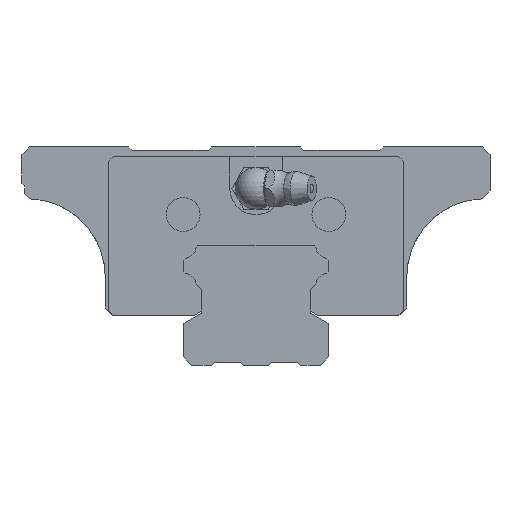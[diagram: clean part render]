
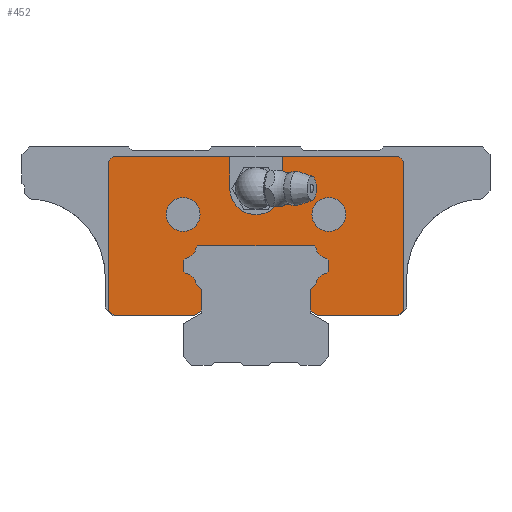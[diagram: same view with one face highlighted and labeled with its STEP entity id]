
A CAD part, front view. The second image highlights one B-rep face of the part: STEP entity #452.
In plain terms, the highlighted planar face has unit normal (0, -1, 0).
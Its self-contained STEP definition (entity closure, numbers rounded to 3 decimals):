
#199=FACE_BOUND('',#966,.T.);
#200=FACE_BOUND('',#967,.T.);
#270=CIRCLE('',#3640,2.6);
#272=CIRCLE('',#3646,2.6);
#274=CIRCLE('',#3652,2.6);
#276=CIRCLE('',#3658,2.6);
#284=CIRCLE('',#3693,3.25);
#285=CIRCLE('',#3694,3.25);
#286=CIRCLE('',#3695,5.05);
#452=ADVANCED_FACE('',(#199,#200,#768),#613,.T.);
#613=PLANE('',#3696);
#768=FACE_OUTER_BOUND('',#968,.T.);
#966=EDGE_LOOP('',(#1684));
#967=EDGE_LOOP('',(#1685));
#968=EDGE_LOOP('',(#1686,#1687,#1688,#1689,#1690,#1691,#1692,#1693,#1694,
#1695,#1696,#1697,#1698,#1699,#1700,#1701,#1702,#1703,#1704,#1705,#1706,
#1707,#1708,#1709,#1710,#1711,#1712,#1713,#1714,#1715,#1716,#1717));
#1684=ORIENTED_EDGE('',*,*,#2681,.T.);
#1685=ORIENTED_EDGE('',*,*,#2682,.T.);
#1686=ORIENTED_EDGE('',*,*,#2676,.F.);
#1687=ORIENTED_EDGE('',*,*,#2683,.F.);
#1688=ORIENTED_EDGE('',*,*,#2684,.F.);
#1689=ORIENTED_EDGE('',*,*,#2685,.T.);
#1690=ORIENTED_EDGE('',*,*,#2679,.F.);
#1691=ORIENTED_EDGE('',*,*,#2686,.F.);
#1692=ORIENTED_EDGE('',*,*,#2687,.F.);
#1693=ORIENTED_EDGE('',*,*,#2688,.T.);
#1694=ORIENTED_EDGE('',*,*,#2582,.T.);
#1695=ORIENTED_EDGE('',*,*,#2585,.T.);
#1696=ORIENTED_EDGE('',*,*,#2588,.F.);
#1697=ORIENTED_EDGE('',*,*,#2591,.F.);
#1698=ORIENTED_EDGE('',*,*,#2594,.T.);
#1699=ORIENTED_EDGE('',*,*,#2597,.F.);
#1700=ORIENTED_EDGE('',*,*,#2600,.T.);
#1701=ORIENTED_EDGE('',*,*,#2603,.T.);
#1702=ORIENTED_EDGE('',*,*,#2606,.T.);
#1703=ORIENTED_EDGE('',*,*,#2609,.T.);
#1704=ORIENTED_EDGE('',*,*,#2612,.T.);
#1705=ORIENTED_EDGE('',*,*,#2615,.F.);
#1706=ORIENTED_EDGE('',*,*,#2618,.T.);
#1707=ORIENTED_EDGE('',*,*,#2621,.F.);
#1708=ORIENTED_EDGE('',*,*,#2624,.F.);
#1709=ORIENTED_EDGE('',*,*,#2627,.T.);
#1710=ORIENTED_EDGE('',*,*,#2630,.T.);
#1711=ORIENTED_EDGE('',*,*,#2633,.T.);
#1712=ORIENTED_EDGE('',*,*,#2636,.T.);
#1713=ORIENTED_EDGE('',*,*,#2639,.F.);
#1714=ORIENTED_EDGE('',*,*,#2642,.T.);
#1715=ORIENTED_EDGE('',*,*,#2689,.F.);
#1716=ORIENTED_EDGE('',*,*,#2690,.T.);
#1717=ORIENTED_EDGE('',*,*,#2691,.T.);
#2191=VERTEX_POINT('',#5266);
#2192=VERTEX_POINT('',#5268);
#2194=VERTEX_POINT('',#5273);
#2196=VERTEX_POINT('',#5279);
#2198=VERTEX_POINT('',#5285);
#2200=VERTEX_POINT('',#5291);
#2202=VERTEX_POINT('',#5297);
#2204=VERTEX_POINT('',#5303);
#2206=VERTEX_POINT('',#5309);
#2208=VERTEX_POINT('',#5315);
#2210=VERTEX_POINT('',#5321);
#2212=VERTEX_POINT('',#5327);
#2214=VERTEX_POINT('',#5333);
#2216=VERTEX_POINT('',#5339);
#2218=VERTEX_POINT('',#5345);
#2220=VERTEX_POINT('',#5351);
#2222=VERTEX_POINT('',#5357);
#2224=VERTEX_POINT('',#5363);
#2226=VERTEX_POINT('',#5369);
#2228=VERTEX_POINT('',#5375);
#2230=VERTEX_POINT('',#5381);
#2231=VERTEX_POINT('',#5386);
#2246=VERTEX_POINT('',#5466);
#2247=VERTEX_POINT('',#5468);
#2248=VERTEX_POINT('',#5471);
#2249=VERTEX_POINT('',#5473);
#2250=VERTEX_POINT('',#5477);
#2251=VERTEX_POINT('',#5479);
#2252=VERTEX_POINT('',#5481);
#2253=VERTEX_POINT('',#5483);
#2254=VERTEX_POINT('',#5486);
#2255=VERTEX_POINT('',#5488);
#2256=VERTEX_POINT('',#5491);
#2257=VERTEX_POINT('',#5493);
#2582=EDGE_CURVE('',#2192,#2191,#2996,.T.);
#2585=EDGE_CURVE('',#2191,#2194,#2999,.T.);
#2588=EDGE_CURVE('',#2196,#2194,#3002,.T.);
#2591=EDGE_CURVE('',#2198,#2196,#3005,.T.);
#2594=EDGE_CURVE('',#2198,#2200,#270,.T.);
#2597=EDGE_CURVE('',#2202,#2200,#3009,.T.);
#2600=EDGE_CURVE('',#2202,#2204,#3012,.T.);
#2603=EDGE_CURVE('',#2204,#2206,#3015,.T.);
#2606=EDGE_CURVE('',#2206,#2208,#272,.T.);
#2609=EDGE_CURVE('',#2208,#2210,#3019,.T.);
#2612=EDGE_CURVE('',#2210,#2212,#3022,.T.);
#2615=EDGE_CURVE('',#2214,#2212,#3025,.T.);
#2618=EDGE_CURVE('',#2214,#2216,#274,.T.);
#2621=EDGE_CURVE('',#2218,#2216,#3029,.T.);
#2624=EDGE_CURVE('',#2220,#2218,#3032,.T.);
#2627=EDGE_CURVE('',#2220,#2222,#3035,.T.);
#2630=EDGE_CURVE('',#2222,#2224,#276,.T.);
#2633=EDGE_CURVE('',#2224,#2226,#3039,.T.);
#2636=EDGE_CURVE('',#2226,#2228,#3042,.T.);
#2639=EDGE_CURVE('',#2230,#2228,#3045,.T.);
#2642=EDGE_CURVE('',#2230,#2231,#3048,.T.);
#2676=EDGE_CURVE('',#2246,#2247,#3075,.T.);
#2679=EDGE_CURVE('',#2248,#2249,#3078,.T.);
#2681=EDGE_CURVE('',#2250,#2250,#284,.T.);
#2682=EDGE_CURVE('',#2251,#2251,#285,.T.);
#2683=EDGE_CURVE('',#2252,#2246,#3080,.T.);
#2684=EDGE_CURVE('',#2253,#2252,#286,.T.);
#2685=EDGE_CURVE('',#2253,#2249,#3081,.T.);
#2686=EDGE_CURVE('',#2254,#2248,#3082,.T.);
#2687=EDGE_CURVE('',#2255,#2254,#3083,.T.);
#2688=EDGE_CURVE('',#2255,#2192,#3084,.T.);
#2689=EDGE_CURVE('',#2256,#2231,#3085,.T.);
#2690=EDGE_CURVE('',#2256,#2257,#3086,.T.);
#2691=EDGE_CURVE('',#2257,#2247,#3087,.T.);
#2996=LINE('',#5267,#3342);
#2999=LINE('',#5274,#3345);
#3002=LINE('',#5280,#3348);
#3005=LINE('',#5286,#3351);
#3009=LINE('',#5298,#3355);
#3012=LINE('',#5304,#3358);
#3015=LINE('',#5310,#3361);
#3019=LINE('',#5322,#3365);
#3022=LINE('',#5328,#3368);
#3025=LINE('',#5334,#3371);
#3029=LINE('',#5346,#3375);
#3032=LINE('',#5352,#3378);
#3035=LINE('',#5358,#3381);
#3039=LINE('',#5370,#3385);
#3042=LINE('',#5376,#3388);
#3045=LINE('',#5382,#3391);
#3048=LINE('',#5387,#3394);
#3075=LINE('',#5467,#3421);
#3078=LINE('',#5472,#3424);
#3080=LINE('',#5480,#3426);
#3081=LINE('',#5484,#3427);
#3082=LINE('',#5485,#3428);
#3083=LINE('',#5487,#3429);
#3084=LINE('',#5489,#3430);
#3085=LINE('',#5490,#3431);
#3086=LINE('',#5492,#3432);
#3087=LINE('',#5494,#3433);
#3342=VECTOR('',#4252,1.);
#3345=VECTOR('',#4257,1.);
#3348=VECTOR('',#4262,1.);
#3351=VECTOR('',#4267,1.);
#3355=VECTOR('',#4279,1.);
#3358=VECTOR('',#4284,1.);
#3361=VECTOR('',#4289,1.);
#3365=VECTOR('',#4301,1.);
#3368=VECTOR('',#4306,1.);
#3371=VECTOR('',#4311,1.);
#3375=VECTOR('',#4323,1.);
#3378=VECTOR('',#4328,1.);
#3381=VECTOR('',#4333,1.);
#3385=VECTOR('',#4345,1.);
#3388=VECTOR('',#4350,1.);
#3391=VECTOR('',#4355,1.);
#3394=VECTOR('',#4360,1.);
#3421=VECTOR('',#4443,1.);
#3424=VECTOR('',#4446,1.);
#3426=VECTOR('',#4454,1.);
#3427=VECTOR('',#4457,1.);
#3428=VECTOR('',#4458,1.);
#3429=VECTOR('',#4459,1.);
#3430=VECTOR('',#4460,1.);
#3431=VECTOR('',#4461,1.);
#3432=VECTOR('',#4462,1.);
#3433=VECTOR('',#4463,1.);
#3640=AXIS2_PLACEMENT_3D('',#5292,#4272,#4273);
#3646=AXIS2_PLACEMENT_3D('',#5316,#4294,#4295);
#3652=AXIS2_PLACEMENT_3D('',#5340,#4316,#4317);
#3658=AXIS2_PLACEMENT_3D('',#5364,#4338,#4339);
#3693=AXIS2_PLACEMENT_3D('',#5476,#4450,#4451);
#3694=AXIS2_PLACEMENT_3D('',#5478,#4452,#4453);
#3695=AXIS2_PLACEMENT_3D('',#5482,#4455,#4456);
#3696=AXIS2_PLACEMENT_3D('',#5495,#4464,#4465);
#4252=DIRECTION('',(1.,0.,0.));
#4257=DIRECTION('',(0.866,0.,0.5));
#4262=DIRECTION('',(0.,0.,-1.));
#4267=DIRECTION('',(0.707,0.,-0.707));
#4272=DIRECTION('',(0.,-1.,0.));
#4273=DIRECTION('',(1.,0.,0.));
#4279=DIRECTION('',(0.707,0.,-0.707));
#4284=DIRECTION('',(0.,0.,1.));
#4289=DIRECTION('',(0.707,0.,0.707));
#4294=DIRECTION('',(0.,-1.,0.));
#4295=DIRECTION('',(1.,0.,0.));
#4301=DIRECTION('',(0.707,0.,0.707));
#4306=DIRECTION('',(1.,0.,0.));
#4311=DIRECTION('',(-0.707,0.,0.707));
#4316=DIRECTION('',(0.,-1.,0.));
#4317=DIRECTION('',(1.,0.,0.));
#4323=DIRECTION('',(-0.707,0.,0.707));
#4328=DIRECTION('',(0.,0.,1.));
#4333=DIRECTION('',(-0.707,0.,-0.707));
#4338=DIRECTION('',(0.,-1.,0.));
#4339=DIRECTION('',(1.,0.,0.));
#4345=DIRECTION('',(-0.707,0.,-0.707));
#4350=DIRECTION('',(0.,0.,-1.));
#4355=DIRECTION('',(-0.866,0.,0.5));
#4360=DIRECTION('',(1.,0.,0.));
#4443=DIRECTION('',(1.,0.,0.));
#4446=DIRECTION('',(1.,0.,0.));
#4450=DIRECTION('',(0.,1.,0.));
#4451=DIRECTION('',(0.,0.,1.));
#4452=DIRECTION('',(0.,1.,0.));
#4453=DIRECTION('',(0.,0.,1.));
#4454=DIRECTION('',(0.,0.,1.));
#4455=DIRECTION('',(0.,-1.,0.));
#4456=DIRECTION('',(1.,0.,0.));
#4457=DIRECTION('',(0.,0.,1.));
#4458=DIRECTION('',(0.707,0.,0.707));
#4459=DIRECTION('',(0.,0.,1.));
#4460=DIRECTION('',(0.707,0.,-0.707));
#4461=DIRECTION('',(-0.707,0.,-0.707));
#4462=DIRECTION('',(0.,0.,1.));
#4463=DIRECTION('',(-0.707,0.,0.707));
#4464=DIRECTION('',(0.,-1.,0.));
#4465=DIRECTION('',(0.,0.,-1.));
#5266=CARTESIAN_POINT('',(-12.002,-34.,9.5));
#5267=CARTESIAN_POINT('',(-27.274,-34.,9.5));
#5268=CARTESIAN_POINT('',(-27.274,-34.,9.5));
#5273=CARTESIAN_POINT('',(-10.43,-34.,10.408));
#5274=CARTESIAN_POINT('',(-12.002,-34.,9.5));
#5279=CARTESIAN_POINT('',(-10.43,-34.,14.531));
#5280=CARTESIAN_POINT('',(-10.43,-34.,14.531));
#5285=CARTESIAN_POINT('',(-11.512,-34.,15.612));
#5286=CARTESIAN_POINT('',(-11.512,-34.,15.612));
#5291=CARTESIAN_POINT('',(-13.588,-34.,17.688));
#5292=CARTESIAN_POINT('',(-14.067,-34.,15.133));
#5297=CARTESIAN_POINT('',(-13.93,-34.,18.031));
#5298=CARTESIAN_POINT('',(-13.93,-34.,18.031));
#5303=CARTESIAN_POINT('',(-13.93,-34.,20.169));
#5304=CARTESIAN_POINT('',(-13.93,-34.,18.031));
#5309=CARTESIAN_POINT('',(-13.588,-34.,20.512));
#5310=CARTESIAN_POINT('',(-13.93,-34.,20.169));
#5315=CARTESIAN_POINT('',(-11.512,-34.,22.588));
#5316=CARTESIAN_POINT('',(-14.067,-34.,23.067));
#5321=CARTESIAN_POINT('',(-11.169,-34.,22.93));
#5322=CARTESIAN_POINT('',(-11.512,-34.,22.588));
#5327=CARTESIAN_POINT('',(11.169,-34.,22.93));
#5328=CARTESIAN_POINT('',(-11.169,-34.,22.93));
#5333=CARTESIAN_POINT('',(11.512,-34.,22.588));
#5334=CARTESIAN_POINT('',(11.512,-34.,22.588));
#5339=CARTESIAN_POINT('',(13.588,-34.,20.512));
#5340=CARTESIAN_POINT('',(14.067,-34.,23.067));
#5345=CARTESIAN_POINT('',(13.93,-34.,20.169));
#5346=CARTESIAN_POINT('',(13.93,-34.,20.169));
#5351=CARTESIAN_POINT('',(13.93,-34.,18.031));
#5352=CARTESIAN_POINT('',(13.93,-34.,18.031));
#5357=CARTESIAN_POINT('',(13.588,-34.,17.688));
#5358=CARTESIAN_POINT('',(13.93,-34.,18.031));
#5363=CARTESIAN_POINT('',(11.512,-34.,15.612));
#5364=CARTESIAN_POINT('',(14.067,-34.,15.133));
#5369=CARTESIAN_POINT('',(10.43,-34.,14.531));
#5370=CARTESIAN_POINT('',(11.512,-34.,15.612));
#5375=CARTESIAN_POINT('',(10.43,-34.,10.408));
#5376=CARTESIAN_POINT('',(10.43,-34.,14.531));
#5381=CARTESIAN_POINT('',(12.002,-34.,9.5));
#5382=CARTESIAN_POINT('',(12.002,-34.,9.5));
#5386=CARTESIAN_POINT('',(27.274,-34.,9.5));
#5387=CARTESIAN_POINT('',(12.002,-34.,9.5));
#5466=CARTESIAN_POINT('',(5.05,-34.,40.14));
#5467=CARTESIAN_POINT('',(-27.434,-34.,40.14));
#5468=CARTESIAN_POINT('',(27.434,-34.,40.14));
#5471=CARTESIAN_POINT('',(-27.434,-34.,40.14));
#5472=CARTESIAN_POINT('',(-27.434,-34.,40.14));
#5473=CARTESIAN_POINT('',(-5.05,-34.,40.14));
#5476=CARTESIAN_POINT('',(14.,-34.,29.));
#5477=CARTESIAN_POINT('',(14.,-34.,32.25));
#5478=CARTESIAN_POINT('',(-14.,-34.,29.));
#5479=CARTESIAN_POINT('',(-14.,-34.,32.25));
#5480=CARTESIAN_POINT('',(5.05,-34.,34.));
#5481=CARTESIAN_POINT('',(5.05,-34.,34.));
#5482=CARTESIAN_POINT('',(0.,-34.,34.));
#5483=CARTESIAN_POINT('',(-5.05,-34.,34.));
#5484=CARTESIAN_POINT('',(-5.05,-34.,34.));
#5485=CARTESIAN_POINT('',(-28.34,-34.,39.234));
#5486=CARTESIAN_POINT('',(-28.34,-34.,39.234));
#5487=CARTESIAN_POINT('',(-28.34,-34.,10.566));
#5488=CARTESIAN_POINT('',(-28.34,-34.,10.566));
#5489=CARTESIAN_POINT('',(-28.34,-34.,10.566));
#5490=CARTESIAN_POINT('',(28.34,-34.,10.566));
#5491=CARTESIAN_POINT('',(28.34,-34.,10.566));
#5492=CARTESIAN_POINT('',(28.34,-34.,10.566));
#5493=CARTESIAN_POINT('',(28.34,-34.,39.234));
#5494=CARTESIAN_POINT('',(28.34,-34.,39.234));
#5495=CARTESIAN_POINT('',(-14.067,-34.,15.133));
